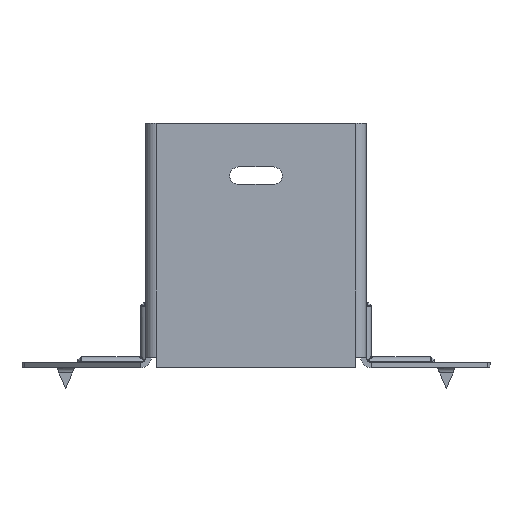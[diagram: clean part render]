
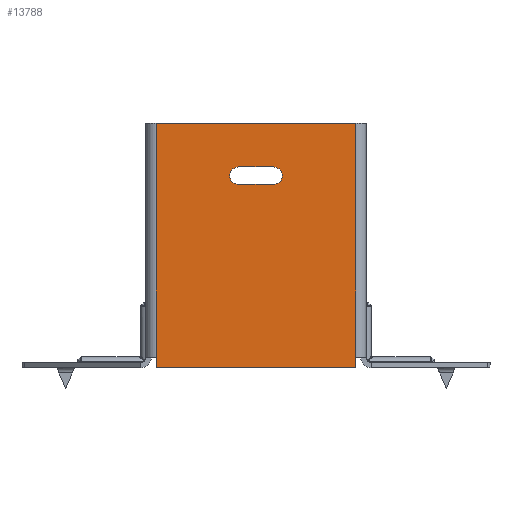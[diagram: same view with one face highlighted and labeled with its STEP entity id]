
A CAD part, front view. The second image highlights one B-rep face of the part: STEP entity #13788.
In plain terms, the highlighted planar face has unit normal (0, -1, 0).
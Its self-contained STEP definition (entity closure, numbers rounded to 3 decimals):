
#216 = ORIENTED_EDGE ( 'NONE', *, *, #8185, .T. ) ;
#385 = VECTOR ( 'NONE', #7472, 1000. ) ;
#560 = LINE ( 'NONE', #1992, #13311 ) ;
#748 = EDGE_CURVE ( 'NONE', #7003, #9070, #12493, .T. ) ;
#1144 = CARTESIAN_POINT ( 'NONE',  ( 0., 0., 0. ) ) ;
#1615 = VERTEX_POINT ( 'NONE', #2042 ) ;
#1708 = CARTESIAN_POINT ( 'NONE',  ( 28.5, 0., 0. ) ) ;
#1896 = DIRECTION ( 'NONE',  ( 1., 0., 0. ) ) ;
#1934 = VECTOR ( 'NONE', #1896, 1000. ) ;
#1992 = CARTESIAN_POINT ( 'NONE',  ( -28.5, 0., 0. ) ) ;
#2042 = CARTESIAN_POINT ( 'NONE',  ( 5., 0., -12.5 ) ) ;
#2044 = ORIENTED_EDGE ( 'NONE', *, *, #14108, .T. ) ;
#2102 = DIRECTION ( 'NONE',  ( 0., 0., -1. ) ) ;
#2119 = VERTEX_POINT ( 'NONE', #9631 ) ;
#2283 = EDGE_CURVE ( 'NONE', #9458, #4973, #12856, .T. ) ;
#2527 = CARTESIAN_POINT ( 'NONE',  ( 28.5, 0., -67. ) ) ;
#2740 = VECTOR ( 'NONE', #4647, 1000. ) ;
#2910 = DIRECTION ( 'NONE',  ( 0., 0., 1. ) ) ;
#3102 = DIRECTION ( 'NONE',  ( 0., 1., 0. ) ) ;
#3116 = CARTESIAN_POINT ( 'NONE',  ( -5., 0., -17.5 ) ) ;
#3136 = CARTESIAN_POINT ( 'NONE',  ( -28.5, 0., -67. ) ) ;
#3586 = EDGE_CURVE ( 'NONE', #10494, #8839, #11023, .T. ) ;
#4069 = ORIENTED_EDGE ( 'NONE', *, *, #14180, .F. ) ;
#4301 = LINE ( 'NONE', #11476, #385 ) ;
#4380 = DIRECTION ( 'NONE',  ( 0., 1., 0. ) ) ;
#4647 = DIRECTION ( 'NONE',  ( 1., 0., 0. ) ) ;
#4706 = CARTESIAN_POINT ( 'NONE',  ( -30., 0., 0. ) ) ;
#4973 = VERTEX_POINT ( 'NONE', #6529 ) ;
#5554 = EDGE_CURVE ( 'NONE', #9070, #2119, #6020, .T. ) ;
#5626 = LINE ( 'NONE', #4706, #1934 ) ;
#5731 = AXIS2_PLACEMENT_3D ( 'NONE', #15195, #3102, #16470 ) ;
#6020 = CIRCLE ( 'NONE', #8388, 2.5 ) ;
#6163 = VERTEX_POINT ( 'NONE', #2527 ) ;
#6252 = EDGE_CURVE ( 'NONE', #1615, #7003, #7644, .T. ) ;
#6529 = CARTESIAN_POINT ( 'NONE',  ( -28.5, 0., -70. ) ) ;
#6531 = VERTEX_POINT ( 'NONE', #1708 ) ;
#6671 = VECTOR ( 'NONE', #13919, 1000. ) ;
#6789 = VECTOR ( 'NONE', #2910, 1000. ) ;
#6909 = CARTESIAN_POINT ( 'NONE',  ( -5., 0., -15. ) ) ;
#7001 = EDGE_LOOP ( 'NONE', ( #13457, #12939, #2044, #15689 ) ) ;
#7003 = VERTEX_POINT ( 'NONE', #11887 ) ;
#7472 = DIRECTION ( 'NONE',  ( 0., 0., 1. ) ) ;
#7644 = CIRCLE ( 'NONE', #5731, 2.5 ) ;
#8185 = EDGE_CURVE ( 'NONE', #9458, #6163, #4301, .T. ) ;
#8388 = AXIS2_PLACEMENT_3D ( 'NONE', #6909, #4380, #13583 ) ;
#8839 = VERTEX_POINT ( 'NONE', #3136 ) ;
#8972 = EDGE_CURVE ( 'NONE', #8839, #4973, #560, .T. ) ;
#9070 = VERTEX_POINT ( 'NONE', #16791 ) ;
#9458 = VERTEX_POINT ( 'NONE', #11311 ) ;
#9615 = VECTOR ( 'NONE', #15041, 1000. ) ;
#9631 = CARTESIAN_POINT ( 'NONE',  ( -5., 0., -12.5 ) ) ;
#9862 = CARTESIAN_POINT ( 'NONE',  ( -30., 0., -70. ) ) ;
#9909 = CARTESIAN_POINT ( 'NONE',  ( -28.5, 0., 0. ) ) ;
#10047 = AXIS2_PLACEMENT_3D ( 'NONE', #1144, #11590, #13097 ) ;
#10494 = VERTEX_POINT ( 'NONE', #16995 ) ;
#11023 = LINE ( 'NONE', #9909, #16167 ) ;
#11218 = ORIENTED_EDGE ( 'NONE', *, *, #8972, .T. ) ;
#11311 = CARTESIAN_POINT ( 'NONE',  ( 28.5, 0., -70. ) ) ;
#11476 = CARTESIAN_POINT ( 'NONE',  ( 28.5, 0., -70. ) ) ;
#11551 = ORIENTED_EDGE ( 'NONE', *, *, #17055, .T. ) ;
#11590 = DIRECTION ( 'NONE',  ( 0., 1., 0. ) ) ;
#11758 = PLANE ( 'NONE',  #10047 ) ;
#11887 = CARTESIAN_POINT ( 'NONE',  ( 5., 0., -17.5 ) ) ;
#12041 = FACE_BOUND ( 'NONE', #7001, .T. ) ;
#12321 = EDGE_LOOP ( 'NONE', ( #13352, #11218, #14236, #216, #11551, #4069 ) ) ;
#12493 = LINE ( 'NONE', #3116, #9615 ) ;
#12535 = DIRECTION ( 'NONE',  ( 0., 0., -1. ) ) ;
#12856 = LINE ( 'NONE', #9862, #6671 ) ;
#12939 = ORIENTED_EDGE ( 'NONE', *, *, #5554, .T. ) ;
#13097 = DIRECTION ( 'NONE',  ( 0., 0., 1. ) ) ;
#13311 = VECTOR ( 'NONE', #2102, 1000. ) ;
#13352 = ORIENTED_EDGE ( 'NONE', *, *, #3586, .T. ) ;
#13457 = ORIENTED_EDGE ( 'NONE', *, *, #748, .T. ) ;
#13583 = DIRECTION ( 'NONE',  ( 0., 0., 1. ) ) ;
#13788 = ADVANCED_FACE ( 'NONE', ( #12041, #16976 ), #11758, .F. ) ;
#13919 = DIRECTION ( 'NONE',  ( -1., 0., 0. ) ) ;
#13963 = CARTESIAN_POINT ( 'NONE',  ( -5., 0., -12.5 ) ) ;
#14108 = EDGE_CURVE ( 'NONE', #2119, #1615, #14695, .T. ) ;
#14180 = EDGE_CURVE ( 'NONE', #10494, #6531, #5626, .T. ) ;
#14236 = ORIENTED_EDGE ( 'NONE', *, *, #2283, .F. ) ;
#14695 = LINE ( 'NONE', #13963, #2740 ) ;
#15041 = DIRECTION ( 'NONE',  ( -1., 0., 0. ) ) ;
#15195 = CARTESIAN_POINT ( 'NONE',  ( 5., 0., -15. ) ) ;
#15689 = ORIENTED_EDGE ( 'NONE', *, *, #6252, .T. ) ;
#15875 = LINE ( 'NONE', #16056, #6789 ) ;
#16056 = CARTESIAN_POINT ( 'NONE',  ( 28.5, 0., -70. ) ) ;
#16167 = VECTOR ( 'NONE', #12535, 1000. ) ;
#16470 = DIRECTION ( 'NONE',  ( 0., 0., 1. ) ) ;
#16791 = CARTESIAN_POINT ( 'NONE',  ( -5., 0., -17.5 ) ) ;
#16976 = FACE_OUTER_BOUND ( 'NONE', #12321, .T. ) ;
#16995 = CARTESIAN_POINT ( 'NONE',  ( -28.5, 0., 0. ) ) ;
#17055 = EDGE_CURVE ( 'NONE', #6163, #6531, #15875, .T. ) ;
